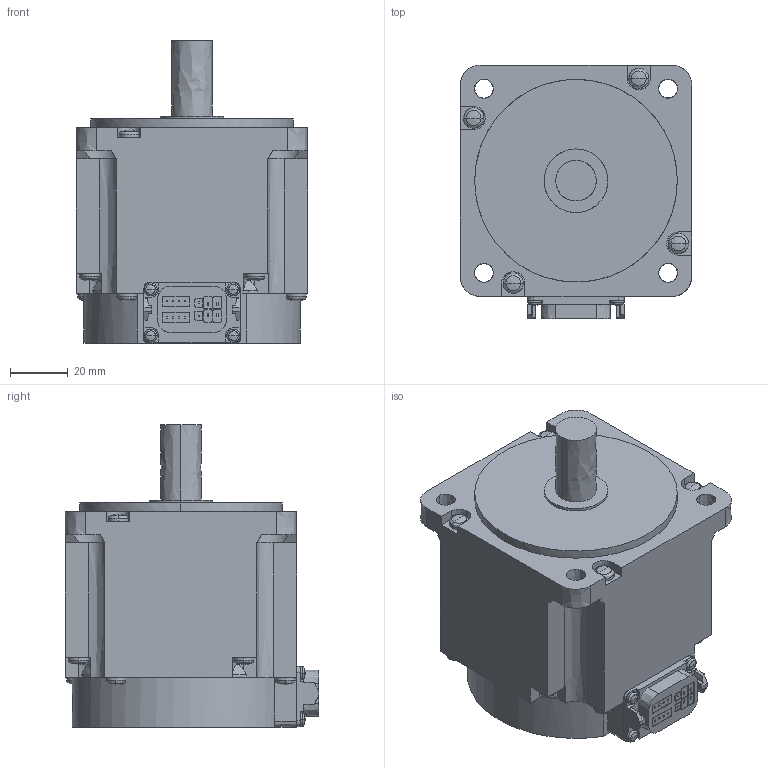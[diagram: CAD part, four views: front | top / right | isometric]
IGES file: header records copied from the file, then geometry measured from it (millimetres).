
Start section:  PTC IGES file: hk-kt43uw_-_asm.igs
Global section: file name: hk-kt43uw_-_asm.igs; native system: Creo Parametric by PTC Inc.; preprocessor: 2016380; author: XE90682; organization: Unknown; date: 20190115.180105; units: millimetre
Bounding box: 80 x 87.65 x 104.5 mm (x, y, z)
Volume: 425679.9 mm3; surface area: 38635 mm2
Topology: 1 solids, 1 shells, 401 faces, 1043 edges, 655 vertices
Faces by surface type: bspline 401
